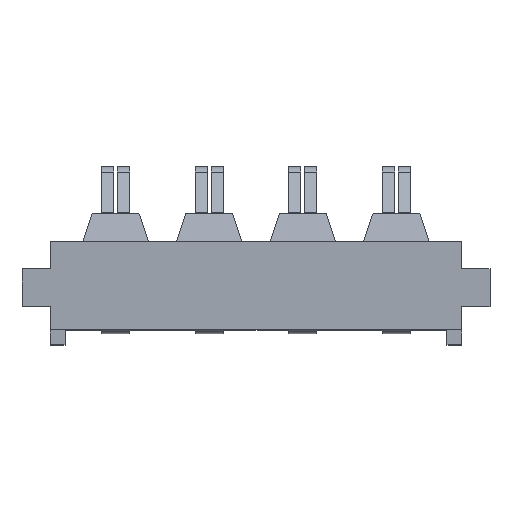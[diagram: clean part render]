
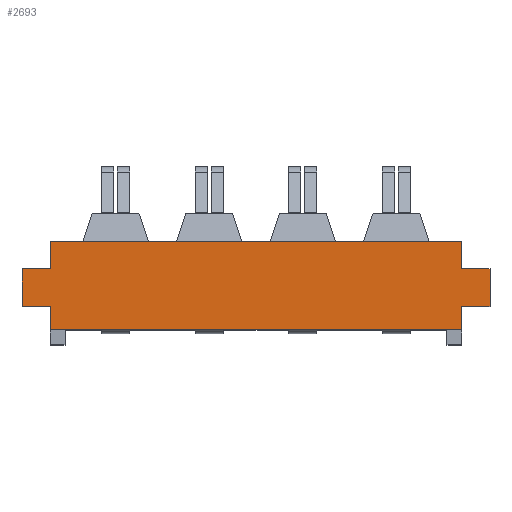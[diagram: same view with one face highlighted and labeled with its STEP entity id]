
A CAD part, top view. The second image highlights one B-rep face of the part: STEP entity #2693.
In plain terms, the highlighted planar face has unit normal (0, 0, 1).
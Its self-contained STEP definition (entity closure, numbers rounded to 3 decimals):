
#48 = CARTESIAN_POINT ( 'NONE',  ( 45.796, 28.569, 118.931 ) ) ;
#199 = EDGE_CURVE ( 'NONE', #5099, #4433, #388, .T. ) ;
#281 = DIRECTION ( 'NONE',  ( -1., 0., 0. ) ) ;
#333 = LINE ( 'NONE', #1532, #3822 ) ;
#388 = LINE ( 'NONE', #2982, #5079 ) ;
#414 = CARTESIAN_POINT ( 'NONE',  ( 67.796, 32.019, 118.931 ) ) ;
#624 = VERTEX_POINT ( 'NONE', #1588 ) ;
#673 = CARTESIAN_POINT ( 'NONE',  ( 69.296, 30.569, 118.931 ) ) ;
#677 = DIRECTION ( 'NONE',  ( 1., 0., 0. ) ) ;
#759 = EDGE_CURVE ( 'NONE', #1993, #860, #4770, .T. ) ;
#766 = EDGE_CURVE ( 'NONE', #2932, #5099, #3470, .T. ) ;
#813 = VERTEX_POINT ( 'NONE', #2722 ) ;
#814 = VECTOR ( 'NONE', #677, 1000. ) ;
#852 = DIRECTION ( 'NONE',  ( 0., 0., 1. ) ) ;
#860 = VERTEX_POINT ( 'NONE', #4481 ) ;
#925 = VECTOR ( 'NONE', #1623, 1000. ) ;
#961 = DIRECTION ( 'NONE',  ( 0., -1., 0. ) ) ;
#995 = VERTEX_POINT ( 'NONE', #5103 ) ;
#1047 = EDGE_CURVE ( 'NONE', #4433, #3428, #2488, .T. ) ;
#1069 = CARTESIAN_POINT ( 'NONE',  ( 45.796, 32.019, 118.931 ) ) ;
#1202 = LINE ( 'NONE', #4674, #1277 ) ;
#1277 = VECTOR ( 'NONE', #3287, 1000. ) ;
#1300 = ORIENTED_EDGE ( 'NONE', *, *, #1612, .F. ) ;
#1314 = LINE ( 'NONE', #2989, #925 ) ;
#1392 = EDGE_CURVE ( 'NONE', #1906, #624, #1202, .T. ) ;
#1459 = VECTOR ( 'NONE', #4269, 1000. ) ;
#1475 = VERTEX_POINT ( 'NONE', #2203 ) ;
#1495 = CARTESIAN_POINT ( 'NONE',  ( 67.796, 28.569, 118.931 ) ) ;
#1532 = CARTESIAN_POINT ( 'NONE',  ( 67.796, 27.319, 118.931 ) ) ;
#1566 = CARTESIAN_POINT ( 'NONE',  ( 69.296, 28.569, 118.931 ) ) ;
#1580 = CARTESIAN_POINT ( 'NONE',  ( 45.796, 30.569, 118.931 ) ) ;
#1588 = CARTESIAN_POINT ( 'NONE',  ( 67.796, 30.569, 118.931 ) ) ;
#1591 = DIRECTION ( 'NONE',  ( 0., -1., 0. ) ) ;
#1603 = EDGE_LOOP ( 'NONE', ( #2673, #3432, #5151, #2383, #2761, #1300, #2792, #5036, #5309, #3782, #1934, #2977 ) ) ;
#1612 = EDGE_CURVE ( 'NONE', #995, #813, #3144, .T. ) ;
#1623 = DIRECTION ( 'NONE',  ( -1., 0., 0. ) ) ;
#1670 = EDGE_CURVE ( 'NONE', #624, #1475, #2847, .T. ) ;
#1679 = EDGE_CURVE ( 'NONE', #860, #995, #333, .T. ) ;
#1732 = VERTEX_POINT ( 'NONE', #1566 ) ;
#1758 = CARTESIAN_POINT ( 'NONE',  ( 67.796, 28.569, 118.931 ) ) ;
#1842 = VECTOR ( 'NONE', #2708, 1000. ) ;
#1867 = EDGE_CURVE ( 'NONE', #3428, #1906, #5608, .T. ) ;
#1906 = VERTEX_POINT ( 'NONE', #414 ) ;
#1934 = ORIENTED_EDGE ( 'NONE', *, *, #1670, .F. ) ;
#1993 = VERTEX_POINT ( 'NONE', #1495 ) ;
#2113 = CARTESIAN_POINT ( 'NONE',  ( 11.823, -28.646, 118.931 ) ) ;
#2203 = CARTESIAN_POINT ( 'NONE',  ( 69.296, 30.569, 118.931 ) ) ;
#2383 = ORIENTED_EDGE ( 'NONE', *, *, #766, .F. ) ;
#2488 = LINE ( 'NONE', #1580, #4439 ) ;
#2673 = ORIENTED_EDGE ( 'NONE', *, *, #1867, .F. ) ;
#2693 = ADVANCED_FACE ( 'NONE', ( #4751 ), #4332, .T. ) ;
#2708 = DIRECTION ( 'NONE',  ( -1., 0., 0. ) ) ;
#2722 = CARTESIAN_POINT ( 'NONE',  ( 45.796, 28.569, 118.931 ) ) ;
#2761 = ORIENTED_EDGE ( 'NONE', *, *, #2887, .F. ) ;
#2792 = ORIENTED_EDGE ( 'NONE', *, *, #1679, .F. ) ;
#2847 = LINE ( 'NONE', #5463, #814 ) ;
#2887 = EDGE_CURVE ( 'NONE', #813, #2932, #5324, .T. ) ;
#2932 = VERTEX_POINT ( 'NONE', #3511 ) ;
#2977 = ORIENTED_EDGE ( 'NONE', *, *, #1392, .F. ) ;
#2982 = CARTESIAN_POINT ( 'NONE',  ( 44.296, 30.569, 118.931 ) ) ;
#2989 = CARTESIAN_POINT ( 'NONE',  ( 69.296, 28.569, 118.931 ) ) ;
#3074 = CARTESIAN_POINT ( 'NONE',  ( 50.796, 32.019, 118.931 ) ) ;
#3144 = LINE ( 'NONE', #4050, #5277 ) ;
#3287 = DIRECTION ( 'NONE',  ( 0., -1., 0. ) ) ;
#3358 = CARTESIAN_POINT ( 'NONE',  ( 45.796, 30.569, 118.931 ) ) ;
#3428 = VERTEX_POINT ( 'NONE', #1069 ) ;
#3432 = ORIENTED_EDGE ( 'NONE', *, *, #1047, .F. ) ;
#3470 = LINE ( 'NONE', #3980, #5169 ) ;
#3511 = CARTESIAN_POINT ( 'NONE',  ( 44.296, 28.569, 118.931 ) ) ;
#3766 = VECTOR ( 'NONE', #1591, 1000. ) ;
#3782 = ORIENTED_EDGE ( 'NONE', *, *, #4228, .F. ) ;
#3815 = VECTOR ( 'NONE', #961, 1000. ) ;
#3822 = VECTOR ( 'NONE', #281, 1000. ) ;
#3863 = DIRECTION ( 'NONE',  ( 0., 1., 0. ) ) ;
#3932 = AXIS2_PLACEMENT_3D ( 'NONE', #2113, #852, #5174 ) ;
#3980 = CARTESIAN_POINT ( 'NONE',  ( 44.296, 28.569, 118.931 ) ) ;
#4002 = EDGE_CURVE ( 'NONE', #1732, #1993, #1314, .T. ) ;
#4050 = CARTESIAN_POINT ( 'NONE',  ( 45.796, 27.319, 118.931 ) ) ;
#4228 = EDGE_CURVE ( 'NONE', #1475, #1732, #4576, .T. ) ;
#4269 = DIRECTION ( 'NONE',  ( 1., 0., 0. ) ) ;
#4328 = DIRECTION ( 'NONE',  ( 1., 0., 0. ) ) ;
#4332 = PLANE ( 'NONE',  #3932 ) ;
#4433 = VERTEX_POINT ( 'NONE', #3358 ) ;
#4439 = VECTOR ( 'NONE', #3863, 1000. ) ;
#4481 = CARTESIAN_POINT ( 'NONE',  ( 67.796, 27.319, 118.931 ) ) ;
#4576 = LINE ( 'NONE', #673, #3766 ) ;
#4674 = CARTESIAN_POINT ( 'NONE',  ( 67.796, 32.019, 118.931 ) ) ;
#4751 = FACE_OUTER_BOUND ( 'NONE', #1603, .T. ) ;
#4770 = LINE ( 'NONE', #1758, #3815 ) ;
#4874 = DIRECTION ( 'NONE',  ( 0., 1., 0. ) ) ;
#5036 = ORIENTED_EDGE ( 'NONE', *, *, #759, .F. ) ;
#5079 = VECTOR ( 'NONE', #4328, 1000. ) ;
#5099 = VERTEX_POINT ( 'NONE', #5362 ) ;
#5103 = CARTESIAN_POINT ( 'NONE',  ( 45.796, 27.319, 118.931 ) ) ;
#5151 = ORIENTED_EDGE ( 'NONE', *, *, #199, .F. ) ;
#5169 = VECTOR ( 'NONE', #5201, 1000. ) ;
#5174 = DIRECTION ( 'NONE',  ( 1., 0., 0. ) ) ;
#5201 = DIRECTION ( 'NONE',  ( 0., 1., 0. ) ) ;
#5277 = VECTOR ( 'NONE', #4874, 1000. ) ;
#5309 = ORIENTED_EDGE ( 'NONE', *, *, #4002, .F. ) ;
#5324 = LINE ( 'NONE', #48, #1842 ) ;
#5362 = CARTESIAN_POINT ( 'NONE',  ( 44.296, 30.569, 118.931 ) ) ;
#5463 = CARTESIAN_POINT ( 'NONE',  ( 67.796, 30.569, 118.931 ) ) ;
#5608 = LINE ( 'NONE', #3074, #1459 ) ;
